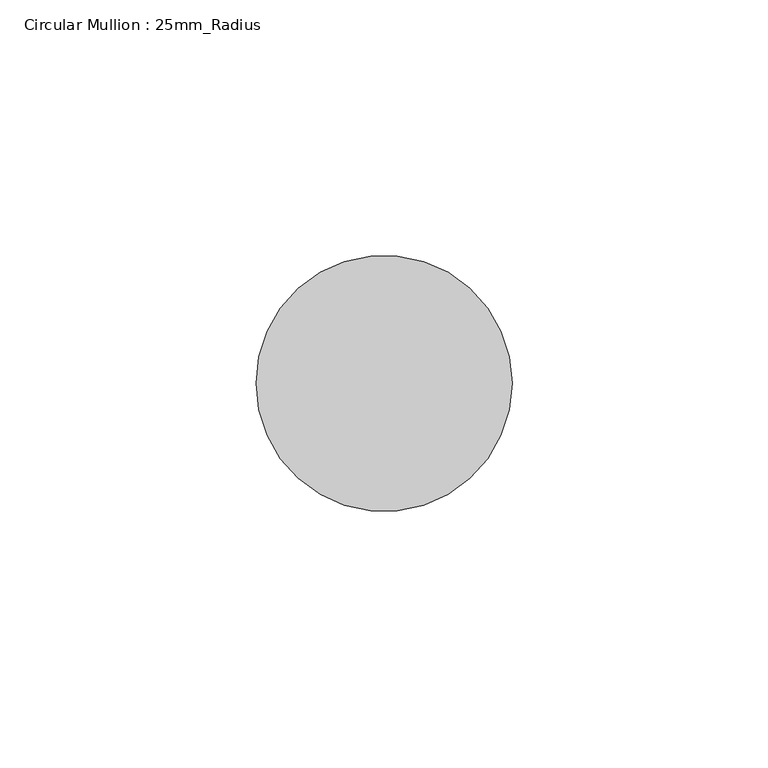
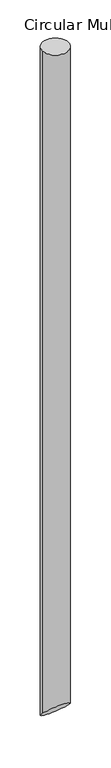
"""IFC4 building model written with IfcOpenShell, lengths in millimetres: member geometry, Circular Mullion : 25mm_Radius."""

from ifc_helpers import new_model, si_unit, frame, origin, place, context, project, spatial, circle_curve, ellipse_curve, source, transform, mapped, element, save
from ifc_brep_helpers import plane_surface, cylinder_surface, advanced_brep


def circular_mullion_25mm_radius_6217b498(model_context):
    return source(origin(), model_context, "Body", "AdvancedBrep", [
        advanced_brep(
        [(0.0, 0.0, 0.0), (-50.0, 0.0, 0.0), (0.0, 0.0, -1346.7743851), (-50.0, 0.0, -1346.7743851)],
        [
            (0, 1, circle_curve(frame((-25.0, 0.0, 0.0), z_axis=(0.0, 0.0, 1.0), x_axis=(1.0, 0.0, 0.0)), 25.0)),
            (1, 0, circle_curve(frame((-25.0, 0.0, 0.0), z_axis=(0.0, 0.0, 1.0), x_axis=(1.0, 0.0, 0.0)), 25.0)),
            (0, 2),
            (2, 3, ellipse_curve(frame((-25.0, 0.0, -1346.7743851), z_axis=(0.0, 0.7071067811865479, 0.7071067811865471), x_axis=(0.0, -0.7071067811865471, 0.7071067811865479)), 35.3553391, 25.0)),
            (3, 1),
            (3, 2, ellipse_curve(frame((-25.0, 0.0, -1346.7743851), z_axis=(0.0, 0.7071067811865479, 0.7071067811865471), x_axis=(0.0, -0.7071067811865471, 0.7071067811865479)), 35.3553391, 25.0)),
        ],
        [
            plane_surface(frame((0.0, -50.0, 0.0), z_axis=(0.0, 0.0, 1.0), x_axis=(-1.0, 0.0, 0.0))),
            cylinder_surface(frame((-25.0, 0.0, 0.0), z_axis=(0.0, 0.0, 1.0), x_axis=(1.0, 0.0, 0.0)), 25.0),
            plane_surface(frame((304.8, 0.0, -1346.7743851), z_axis=(0.0, -0.7071067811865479, -0.7071067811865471), x_axis=(0.0, -0.7071067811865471, 0.7071067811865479))),
        ],
        [
            (0, [[1, 2]]),
            (1, [[-1, 3, 4, 5]]),
            (1, [[-2, -5, 6, -3]]),
            (2, [[-6, -4]]),
        ],
    ),
    ])


if __name__ == "__main__":
    model = new_model("IFC4")
    model_context = context("Model", 3, world=origin())
    ifc_project = project(units=[si_unit("LENGTHUNIT", "METRE", prefix="MILLI")], contexts=[model_context])
    site = spatial("IfcSite", under=ifc_project)
    building = spatial("IfcBuilding", under=site)
    placement = place(None, origin())
    circular_mullion_25mm_radius_shape = circular_mullion_25mm_radius_6217b498(model_context)
    element("IfcMember", 1, ObjectType="Circular Mullion : 25mm_Radius", at=placement, inside=building, context=model_context, shape_type="MappedRepresentation", body=[
        mapped(circular_mullion_25mm_radius_shape, transform((0.0, 0.0, 0.0), x_axis=(1.0, 0.0, 0.0), y_axis=(0.0, 1.0, 0.0), z_axis=(0.0, 0.0, 1.0))),
    ])
    save(model, "model.ifc")
